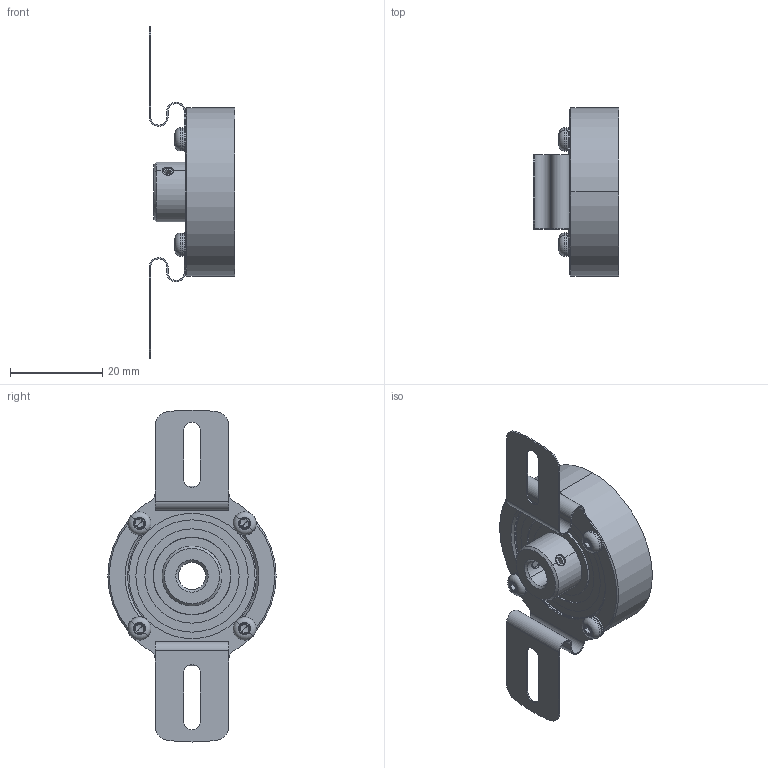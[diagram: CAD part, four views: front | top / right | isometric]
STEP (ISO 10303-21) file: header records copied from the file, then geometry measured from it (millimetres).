
FILE_DESCRIPTION (( 'STEP AP214' ), '1' );
FILE_NAME ('drawing-ucd-a6b0-q3a-n.STEP', '2017-01-06T10:45:26', ( '' ), ( '' ), 'SwSTEP 2.0', 'SolidWorks 2015', '' );
FILE_SCHEMA (( 'AUTOMOTIVE_DESIGN' ));
Length unit declared in the file: millimetre
Products named in the file (1): drawing-ucd-a6b0-q3a-n
Bounding box: 18.5 x 36.5 x 72 mm (x, y, z)
Volume: 9813.2 mm3; surface area: 13635.6 mm2
Topology: 23 solids, 23 shells, 519 faces, 1293 edges, 795 vertices
Faces by surface type: cylinder 174, plane 127, cone 114, bspline 64, torus 40
Entity records: 18408 total; most frequent: CARTESIAN_POINT 5900, DIRECTION 2634, ORIENTED_EDGE 2494, EDGE_CURVE 1247, AXIS2_PLACEMENT_3D 1137, VERTEX_POINT 795, CIRCLE 681, EDGE_LOOP 586
